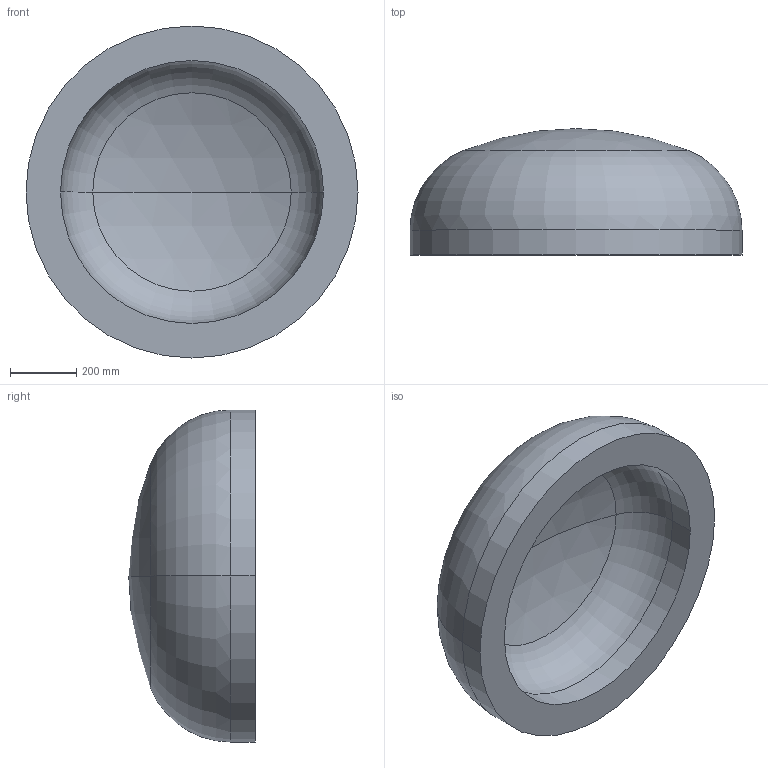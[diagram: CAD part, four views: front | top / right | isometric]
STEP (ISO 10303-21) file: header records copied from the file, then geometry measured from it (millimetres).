
FILE_DESCRIPTION (( 'STEP AP203' ), '1' );
FILE_NAME ('DIN 28013 Korbbogenform_-_Boden DIN 28013 - 1000 x 75 - I - s=104.step', '2016-07-01T08:56:58', ( '' ), ( '' ), 'SwSTEP 2.0', 'SolidWorks 2013', '' );
FILE_SCHEMA (( 'CONFIG_CONTROL_DESIGN' ));
Length unit declared in the file: millimetre
Products named in the file (1): DIN 28013 Korbbogenform_-_Boden DIN 28013 - 1000 x 75 - I - s=104
Bounding box: 1000 x 380.72 x 1000 mm (x, y, z)
Volume: 121595008.8 mm3; surface area: 2653764.3 mm2
Topology: 1 solids, 1 shells, 13 faces, 24 edges, 14 vertices
Faces by surface type: torus 4, cylinder 4, sphere 4, plane 1
Entity records: 407 total; most frequent: DIRECTION 72, CARTESIAN_POINT 52, ORIENTED_EDGE 48, AXIS2_PLACEMENT_3D 34, EDGE_CURVE 24, CIRCLE 20, EDGE_LOOP 14, VERTEX_POINT 14
